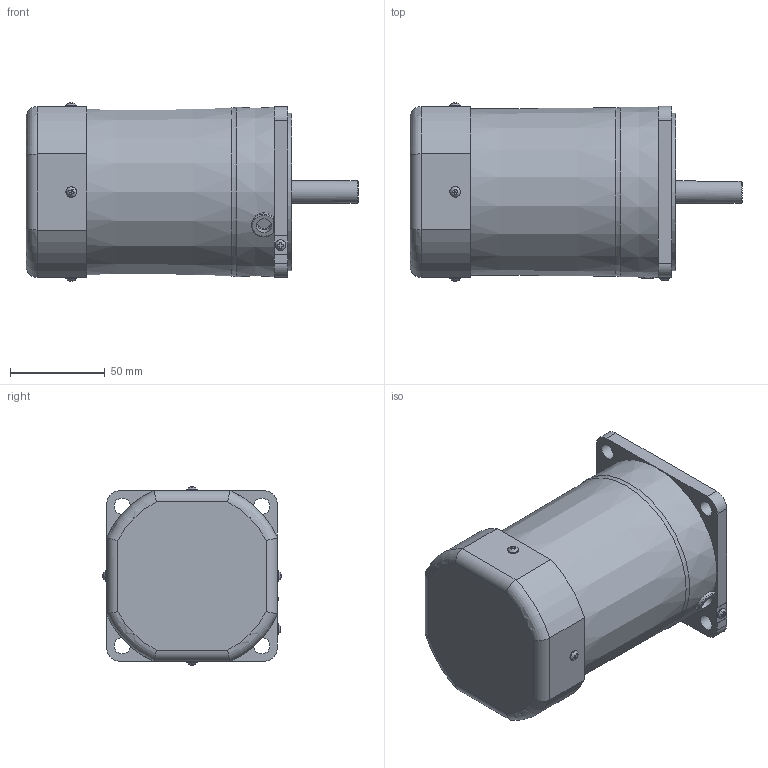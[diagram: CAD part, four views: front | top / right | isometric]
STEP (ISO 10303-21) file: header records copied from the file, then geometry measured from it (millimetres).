
FILE_DESCRIPTION(/* description */ (''),/* implementation_level */ '2;1');
FILE_NAME(/* name */ 'Y:\제품연구개발\3. 도면\3. 고객배포용\3D_홈페이지용\01-1 Standard AC SG Series\0704) 미주향 SG 도면\3D MOTOR\REVERSIBLE\SG9R90K\SG9R90K.stp',/* time_stamp */ '2023-11-23T10:41:09+09:00',/* author */ ('shyi1037'),/* organization */ (''),/* preprocessor_version */ 'ST-DEVELOPER v18.1',/* originating_system */ 'Autodesk Inventor 2022',/* authorisation */ '');
FILE_SCHEMA (('AUTOMOTIVE_DESIGN { 1 0 10303 214 3 1 1 }'));
Length unit declared in the file: millimetre
Products named in the file (5): S9I90G_; S9I90GㅁCE; S9_60_HOUSING A; FAN COVER; 6_CORD BUSH
Assembly tree (4 placements, depth 2):
  S9I90G_
    S9I90GㅁCE
    S9_60_HOUSING A
    FAN COVER
    6_CORD BUSH
Bounding box: 174.8 x 93.89 x 93.89 mm (x, y, z)
Volume: 966996.3 mm3; surface area: 90330.4 mm2
Topology: 4 solids, 8 shells, 212 faces, 537 edges, 354 vertices
Faces by surface type: plane 133, cylinder 50, torus 14, cone 10, bspline 5
Full cylindrical faces by diameter (mm): 3 x8, 3.5 x4, 5.6 x5, 8 x1, 8.5 x4, 10 x1, 12 x1, 40 x1, 83 x1, 86 x1
Entity records: 7206 total; most frequent: CARTESIAN_POINT 1925, ORIENTED_EDGE 1074, DIRECTION 1028, EDGE_CURVE 537, AXIS2_PLACEMENT_3D 370, VERTEX_POINT 354, LINE 288, VECTOR 288
